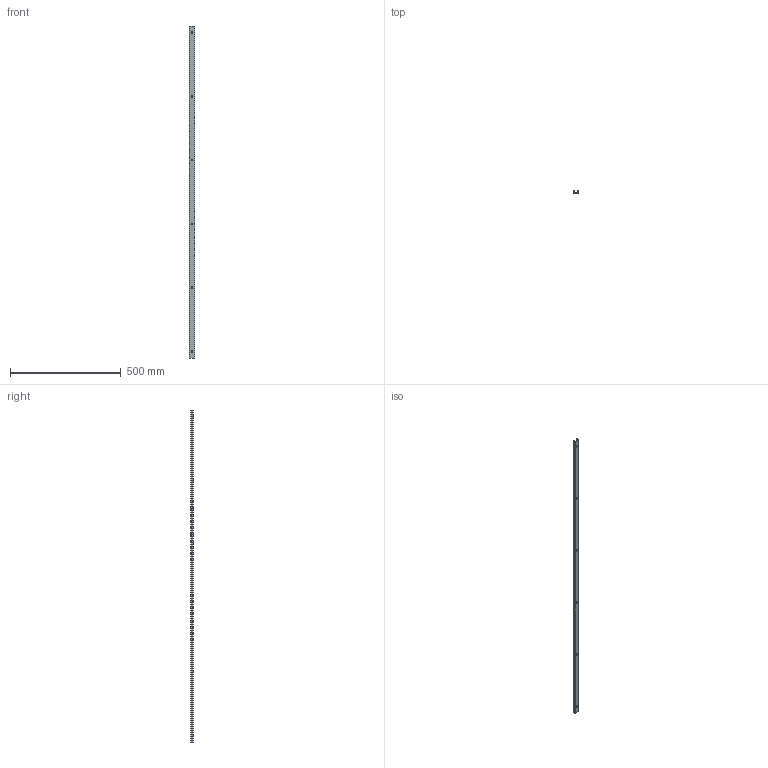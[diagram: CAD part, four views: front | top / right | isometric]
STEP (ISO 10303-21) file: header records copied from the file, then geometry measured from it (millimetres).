
FILE_DESCRIPTION (( 'STEP AP214' ), '1' );
FILE_NAME ('C-skena 1500mm.STEP', '2014-04-10T14:30:34', ( '' ), ( '' ), 'SwSTEP 2.0', 'SolidWorks 2012', '' );
FILE_SCHEMA (( 'AUTOMOTIVE_DESIGN' ));
Length unit declared in the file: millimetre
Products named in the file (1): C-skena 1500mm
Bounding box: 27 x 12 x 1500 mm (x, y, z)
Volume: 163083.4 mm3; surface area: 169703 mm2
Topology: 1 solids, 1 shells, 34 faces, 96 edges, 64 vertices
Faces by surface type: plane 14, cone 12, cylinder 8
Entity records: 1420 total; most frequent: DIRECTION 206, CARTESIAN_POINT 195, ORIENTED_EDGE 192, EDGE_CURVE 96, AXIS2_PLACEMENT_3D 75, VERTEX_POINT 64, LINE 56, VECTOR 56
